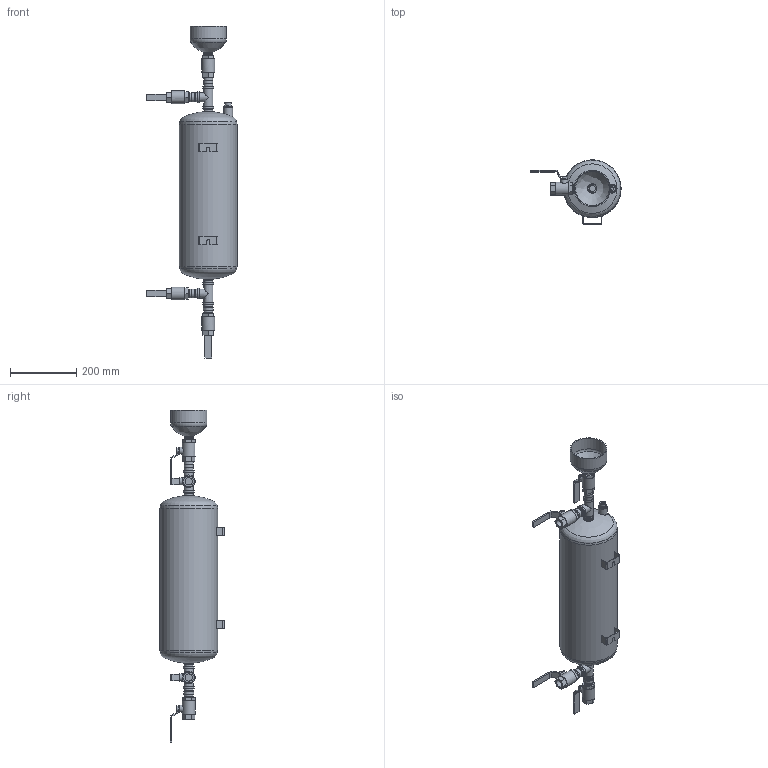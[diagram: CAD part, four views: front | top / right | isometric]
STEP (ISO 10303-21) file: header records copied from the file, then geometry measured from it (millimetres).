
FILE_DESCRIPTION(/* description */ (''),/* implementation_level */ '2;1');
FILE_NAME(/* name */ '\\DATASERVER\data\Flamco\3D-Modellen\Inventor\Dosing Pot\2021\2021 Dosing Pot 11 L\2021_Dosing Pot 11L.stp',/* time_stamp */ '2021-02-17T10:51:17+01:00',/* author */ ('kasius'),/* organization */ (''),/* preprocessor_version */ 'ST-DEVELOPER v17',/* originating_system */ 'Autodesk Inventor 2018',/* authorisation */ '');
FILE_SCHEMA (('AUTOMOTIVE_DESIGN { 1 0 10303 214 3 1 1 }'));
Length unit declared in the file: millimetre
Products named in the file (1): 2021_Dosing Pot 6L
Bounding box: 272.03 x 193.67 x 1000.33 mm (x, y, z)
Volume: 12031173.2 mm3; surface area: 464306.3 mm2
Topology: 3 solids, 3 shells, 302 faces, 785 edges, 538 vertices
Faces by surface type: plane 211, cylinder 55, cone 27, torus 5, bspline 4
Full cylindrical faces by diameter (mm): 9.8 x1, 15.875 x8, 19.001 x1, 19.3 x1, 21.514 x4, 21.749 x2, 21.752 x1, 23.8 x1, 25.801 x1, 26.001 x1, 26.005 x1, 26.5 x1, 26.753 x2, 26.754 x2, 26.757 x1, 27 x2, 27.001 x1, 27.2 x2, 27.205 x1, 32.64 x2, 32.645 x2, 38.495 x2, 38.496 x1, 38.498 x1, 106.001 x1, 110.001 x1, 174.005 x1
Entity records: 9924 total; most frequent: CARTESIAN_POINT 2106, DIRECTION 1654, ORIENTED_EDGE 1570, EDGE_CURVE 785, AXIS2_PLACEMENT_3D 586, VERTEX_POINT 538, LINE 482, VECTOR 482
